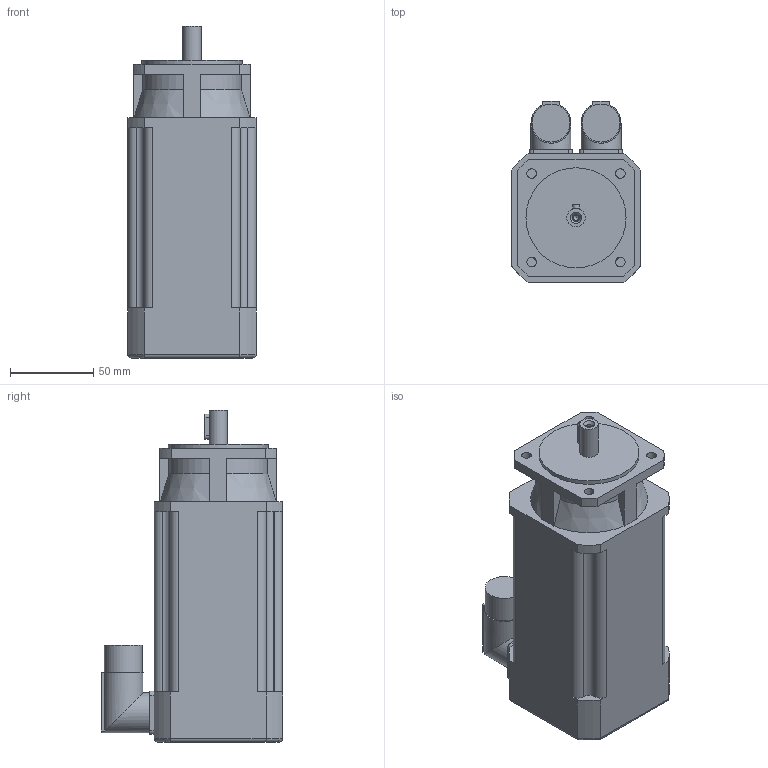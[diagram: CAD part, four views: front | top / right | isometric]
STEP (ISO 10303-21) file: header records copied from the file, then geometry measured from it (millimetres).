
FILE_DESCRIPTION(/* description */ (''),/* implementation_level */ '2;1');
FILE_NAME(/* name */ '\\Lafnas01\disegni\Archivi Lafert\3D\CAD 3D\MODELLI\Assiemi clienti\Serad\Modelli 3D Serad\B36I\Resolver\Res Without Brake\B36E8Ixx6A052033.ipt.stp',/* time_stamp */ '2015-09-07T10:49:15+02:00',/* author */ ('Pastrello Ylenia'),/* organization */ (''),/* preprocessor_version */ 'ST-DEVELOPER v15.6',/* originating_system */ 'Autodesk Inventor 2015',/* authorisation */ '');
FILE_SCHEMA (('AUTOMOTIVE_DESIGN { 1 0 10303 214 3 1 1 }'));
Length unit declared in the file: millimetre
Products named in the file (1): B36E8Ixx6A052033
Bounding box: 77 x 108.5 x 199 mm (x, y, z)
Volume: 980560.6 mm3; surface area: 73810.7 mm2
Topology: 1 solids, 1 shells, 137 faces, 372 edges, 244 vertices
Faces by surface type: plane 66, cylinder 56, cone 11, torus 4
Full cylindrical faces by diameter (mm): 3.242 x1, 4.3 x1, 5.8 x4, 11 x1, 22.7 x2, 24 x2, 60 x1
Entity records: 4352 total; most frequent: CARTESIAN_POINT 890, DIRECTION 726, ORIENTED_EDGE 702, EDGE_CURVE 351, AXIS2_PLACEMENT_3D 259, VERTEX_POINT 239, LINE 208, VECTOR 208
